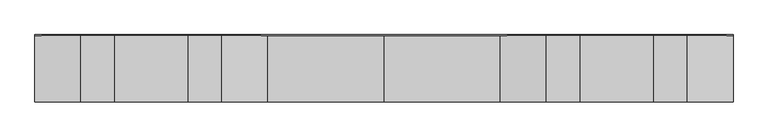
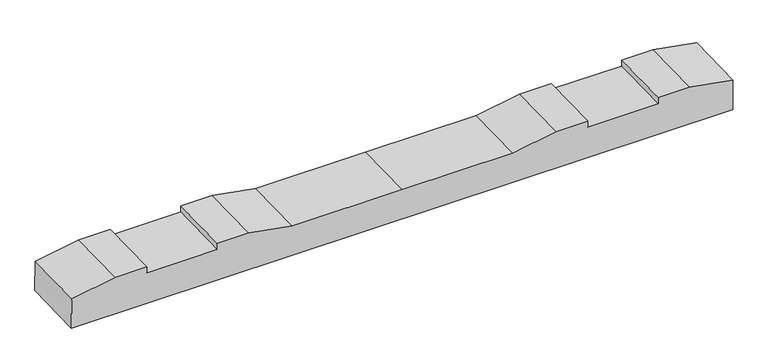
"""IFC4 building model written with IfcOpenShell, lengths in millimetres: proxy geometry, 轨枕-立面角度 : 轨枕-立面角度."""

from ifc_helpers import new_model, si_unit, frame, origin, place, context, project, spatial, polyline, outline, extrude, source, transform, mapped, element, save


def generic_models_31639ee7(model_context):
    return source(origin(), model_context, "Body", "SweptSolid", [
        extrude(outline(polyline([(0.0, 0.0), (2099.7669328, 0.0), (2099.7669328, -100.0206889), (1961.8834664, -124.5000001), (1861.8834664, -124.5000001), (1861.8834664, -104.5000001), (1637.8834664, -104.5000001), (1637.8834664, -124.5000001), (1537.8834664, -124.5000001), (1399.8834664, -100.0), (1049.8834664, -100.0), (699.8834664, -100.0), (561.8834664, -124.5000001), (461.8834664, -124.5000001), (461.8834664, -104.5000001), (237.8834664, -104.5000001), (237.8834664, -124.5000001), (137.8834664, -124.5000001), (0.0, -100.0206889), (0.0, 0.0)])), frame((-1049.8834664, -97.410718, -106.9177349), z_axis=(0.0, 0.9997000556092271, 0.02449079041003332), x_axis=(1.0, 0.0, 0.0)), (0.0, 0.0, 1.0), 200.0),
    ])


if __name__ == "__main__":
    model = new_model("IFC4")
    model_context = context("Model", 3, world=origin())
    ifc_project = project(units=[si_unit("LENGTHUNIT", "METRE", prefix="MILLI")], contexts=[model_context])
    site = spatial("IfcSite", under=ifc_project)
    building = spatial("IfcBuilding", under=site)
    placement = place(None, origin())
    generic_models_shape = generic_models_31639ee7(model_context)
    element("IfcBuildingElementProxy", 1, Name="轨枕-立面角度 : 轨枕-立面角度", ObjectType="轨枕-立面角度 : 轨枕-立面角度", at=placement, inside=building, context=model_context, shape_type="MappedRepresentation", body=[
        mapped(generic_models_shape, transform((0.0, 0.0, 0.0), x_axis=(1.0, 0.0, 0.0), y_axis=(0.0, 1.0, 0.0), z_axis=(0.0, 0.0, 1.0))),
    ])
    save(model, "model.ifc")
